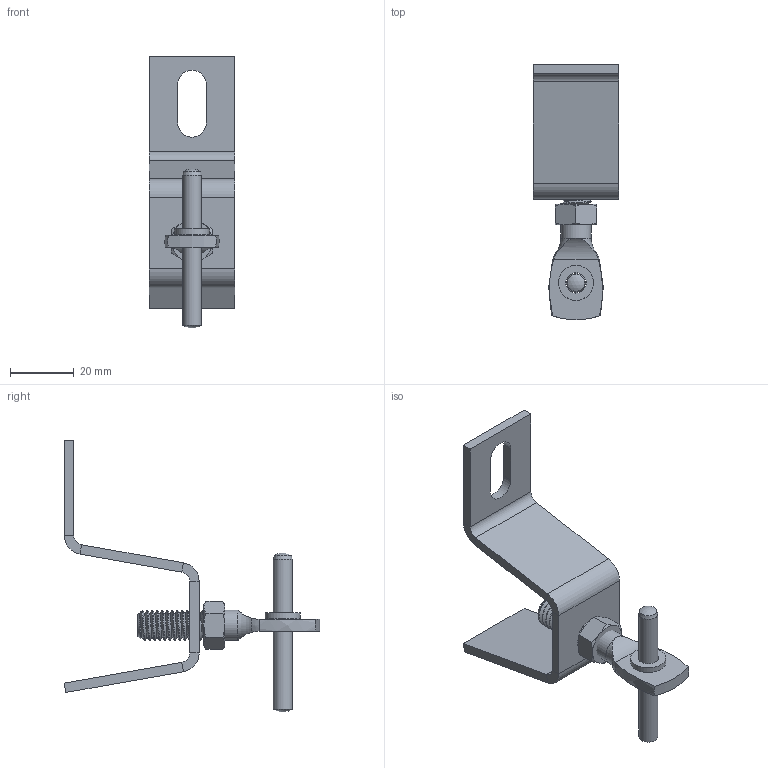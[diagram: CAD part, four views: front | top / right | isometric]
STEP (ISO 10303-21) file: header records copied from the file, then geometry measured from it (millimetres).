
FILE_DESCRIPTION(/* description */ (''),/* implementation_level */ '2;1');
FILE_NAME(/* name */ 'GE-ZA.step',/* time_stamp */ '2025-12-16T17:29:44+03:00',/* author */ (''),/* organization */ (''),/* preprocessor_version */ 'ST-DEVELOPER v20.1',/* originating_system */ 'Autodesk Translation Framework v14.21.0.0',/* authorisation */ '');
FILE_SCHEMA (('AUTOMOTIVE_DESIGN { 1 0 10303 214 3 1 1 }'));
Length unit declared in the file: millimetre
Products named in the file (17): GE-ZA; 91705A400_Wedge Anchor-Style Hangers; GE-S-8 M8 NUT; 90592A022_STEEL HEX NUT; 90172A733_Machine Screw-Style Hangers; 90172A724_Machine Screw-Style Hangers; 90172A731_Machine Screw-Style Hangers; 90172A732_Machine Screw-Style Hangers; 90172A639_Machine Screw-Style Hangers; 90172A633_Machine Screw-Style Hangers; GE-PM-F; 91595A482_Dowel Pin; GE-PUL-6 M6 WASHER; 92620A404_Zinc Yellow-Chromate Plated Hex Head Screw; 91280A069_Medium-Strength Class 8.8 Steel Hex Head Screw; 91828A251_18-8 Stainless Steel Hex Nut; 98689A115
Assembly tree (16 placements, depth 4):
  GE-ZA
    91705A400_Wedge Anchor-Style Hangers
    GE-S-8 M8 NUT
      90592A022_STEEL HEX NUT
    90172A733_Machine Screw-Style Hangers
    90172A724_Machine Screw-Style Hangers
    90172A731_Machine Screw-Style Hangers
    90172A732_Machine Screw-Style Hangers
    90172A639_Machine Screw-Style Hangers
    90172A633_Machine Screw-Style Hangers
    GE-PM-F
      91595A482_Dowel Pin
      GE-PUL-6 M6 WASHER
        92620A404_Zinc Yellow-Chromate Plated Hex Head Screw
        91280A069_Medium-Strength Class 8.8 Steel Hex Head Screw
        91828A251_18-8 Stainless Steel Hex Nut
        98689A115
Bounding box: 27 x 80.28 x 85.45 mm (x, y, z)
Volume: 16151.4 mm3; surface area: 12672.1 mm2
Topology: 5 solids, 5 shells, 123 faces, 292 edges, 179 vertices
Faces by surface type: cylinder 52, plane 39, cone 19, bspline 9, torus 2, sphere 2
Full cylindrical faces by diameter (mm): 6 x1, 6.4 x1, 7.144 x1, 7.463 x13, 8 x4, 9.525 x14, 10 x1, 11 x1
Entity records: 9011 total; most frequent: CARTESIAN_POINT 5939, ORIENTED_EDGE 584, DIRECTION 528, EDGE_CURVE 292, AXIS2_PLACEMENT_3D 210, VERTEX_POINT 179, EDGE_LOOP 133, FACE_OUTER_BOUND 123
